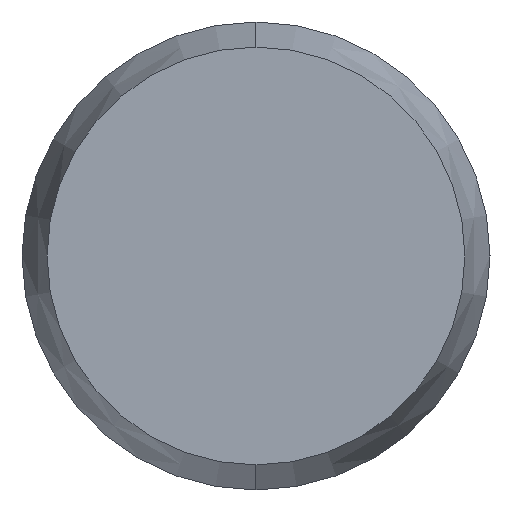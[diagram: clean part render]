
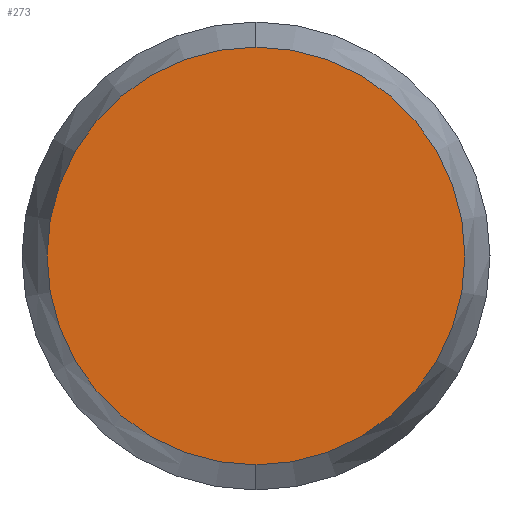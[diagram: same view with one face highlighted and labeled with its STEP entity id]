
A CAD part, left-side view. The second image highlights one B-rep face of the part: STEP entity #273.
In plain terms, the highlighted planar face has unit normal (-1, 0, 0).
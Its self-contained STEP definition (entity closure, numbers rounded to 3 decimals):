
#4 = CIRCLE ( 'NONE', #9, 0.67 ) ;
#7 = DIRECTION ( 'NONE',  ( 1., 0., 0. ) ) ;
#8 = DIRECTION ( 'NONE',  ( 0., 0., -1. ) ) ;
#9 = AXIS2_PLACEMENT_3D ( 'NONE', #12, #7, #8 ) ;
#10 = CARTESIAN_POINT ( 'NONE',  ( -6., 0., 0.67 ) ) ;
#12 = CARTESIAN_POINT ( 'NONE',  ( -6., 0., 0. ) ) ;
#13 = CARTESIAN_POINT ( 'NONE',  ( -6., 0., -0.67 ) ) ;
#17 = VERTEX_POINT ( 'NONE', #13 ) ;
#18 = EDGE_CURVE ( 'NONE', #19, #17, #4, .T. ) ;
#19 = VERTEX_POINT ( 'NONE', #10 ) ;
#65 = EDGE_CURVE ( 'NONE', #17, #19, #232, .T. ) ;
#66 = EDGE_LOOP ( 'NONE', ( #67, #267 ) ) ;
#67 = ORIENTED_EDGE ( 'NONE', *, *, #18, .F. ) ;
#99 = DIRECTION ( 'NONE',  ( 0., 0., -1. ) ) ;
#100 = DIRECTION ( 'NONE',  ( 1., 0., 0. ) ) ;
#101 = CARTESIAN_POINT ( 'NONE',  ( -6., 0., 0. ) ) ;
#102 = AXIS2_PLACEMENT_3D ( 'NONE', #101, #100, #99 ) ;
#103 = FACE_OUTER_BOUND ( 'NONE', #66, .T. ) ;
#104 = PLANE ( 'NONE',  #102 ) ;
#230 = CARTESIAN_POINT ( 'NONE',  ( -6., 0., 0. ) ) ;
#231 = AXIS2_PLACEMENT_3D ( 'NONE', #230, #246, #245 ) ;
#232 = CIRCLE ( 'NONE', #231, 0.67 ) ;
#245 = DIRECTION ( 'NONE',  ( 0., 0., -1. ) ) ;
#246 = DIRECTION ( 'NONE',  ( 1., 0., 0. ) ) ;
#267 = ORIENTED_EDGE ( 'NONE', *, *, #65, .F. ) ;
#273 = ADVANCED_FACE ( 'NONE', ( #103 ), #104, .F. ) ;
